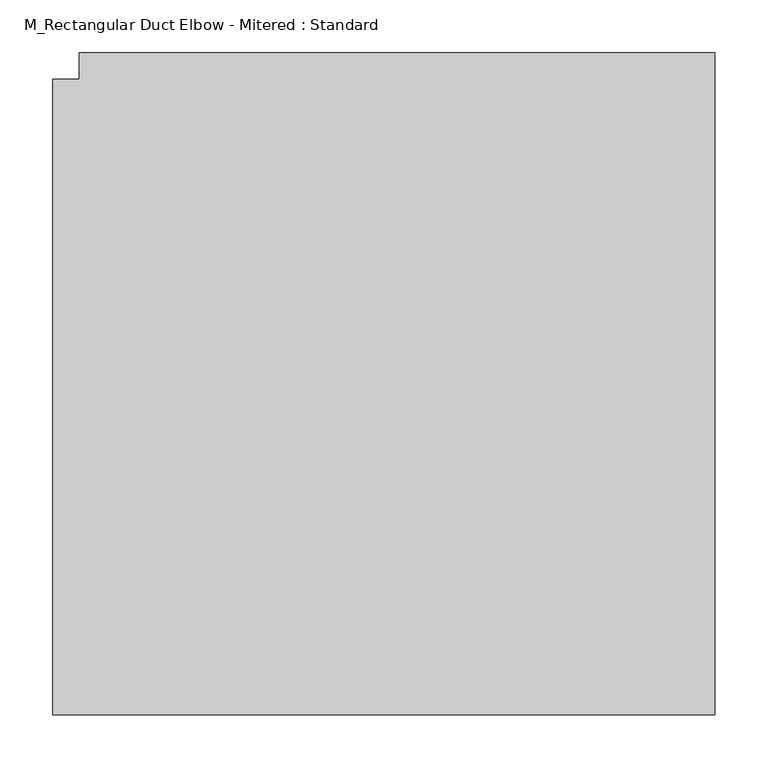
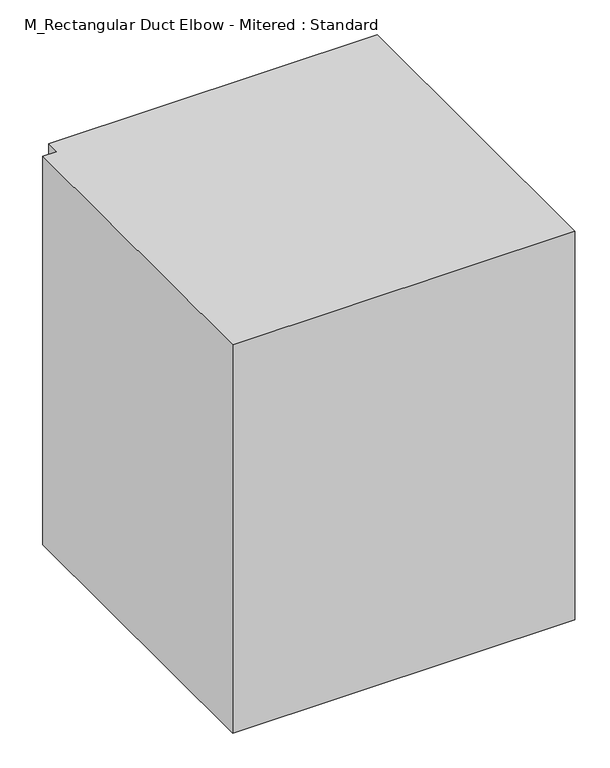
"""IFC4 building model written with IfcOpenShell, lengths in millimetres: duct fitting geometry, M_Rectangular Duct Elbow - Mitered : Standard."""

from ifc_helpers import new_model, si_unit, frame, origin, place, context, project, spatial, polyline, outline, extrude, source, transform, mapped, element, save


def m_rectangular_duct_elbow_mitered_standard_55f5f7a5(model_context):
    return source(origin(), model_context, "Body", "SweptSolid", [
        extrude(outline(polyline([(-325.0, -300.0), (-325.0, 300.0), (-300.0, 300.0), (-300.0, 325.0), (300.0, 325.0), (300.0, -300.0), (-325.0, -300.0)])), frame((0.0, 0.0, -375.0), z_axis=(0.0, 0.0, 1.0), x_axis=(1.0, 0.0, 0.0)), (0.0, 0.0, 1.0), 750.0),
        extrude(outline(polyline([(-325.0, -300.0), (-325.0, 300.0), (-300.0, 300.0), (-300.0, 325.0), (300.0, 325.0), (300.0, -300.0), (-325.0, -300.0)])), frame((0.0, 0.0, -375.0), z_axis=(0.0, 0.0, 1.0), x_axis=(1.0, 0.0, 0.0)), (0.0, 0.0, 1.0), 750.0),
        extrude(outline(polyline([(-325.0, -300.0), (-325.0, 300.0), (-300.0, 300.0), (-300.0, 325.0), (300.0, 325.0), (300.0, -300.0), (-325.0, -300.0)])), frame((0.0, 0.0, -375.0), z_axis=(0.0, 0.0, 1.0), x_axis=(1.0, 0.0, 0.0)), (0.0, 0.0, 1.0), 750.0),
    ])


if __name__ == "__main__":
    model = new_model("IFC4")
    model_context = context("Model", 3, world=origin())
    ifc_project = project(units=[si_unit("LENGTHUNIT", "METRE", prefix="MILLI")], contexts=[model_context])
    site = spatial("IfcSite", under=ifc_project)
    building = spatial("IfcBuilding", under=site)
    placement = place(None, origin())
    m_rectangular_duct_elbow_mitered_standard_shape = m_rectangular_duct_elbow_mitered_standard_55f5f7a5(model_context)
    element("IfcDuctFitting", 1, ObjectType="M_Rectangular Duct Elbow - Mitered : Standard", at=placement, inside=building, context=model_context, shape_type="MappedRepresentation", body=[
        mapped(m_rectangular_duct_elbow_mitered_standard_shape, transform((0.0, 0.0, 0.0), x_axis=(1.0, 0.0, 0.0), y_axis=(0.0, 1.0, 0.0), z_axis=(0.0, 0.0, 1.0))),
    ])
    save(model, "model.ifc")
